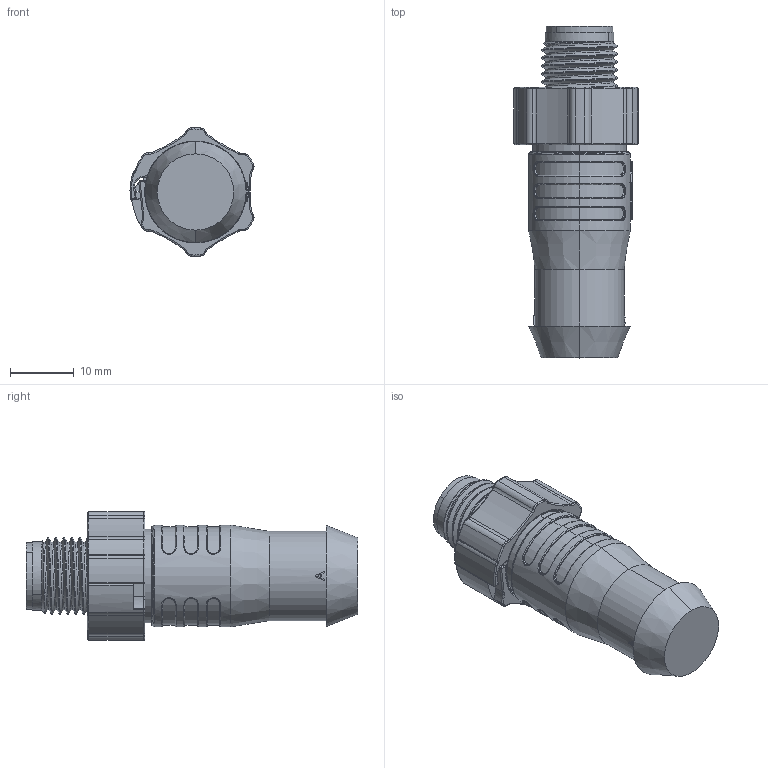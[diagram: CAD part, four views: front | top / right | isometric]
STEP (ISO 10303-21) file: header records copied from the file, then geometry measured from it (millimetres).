
FILE_DESCRIPTION (( 'STEP AP203' ), '1' );
FILE_NAME ('ESRx.step', '2023-04-05T15:33:20', ( '' ), ( '' ), 'SwSTEP 2.0', 'SolidWorks 2019', '' );
FILE_SCHEMA (( 'CONFIG_CONTROL_DESIGN' ));
Length unit declared in the file: millimetre
Products named in the file (1): ESRx
Bounding box: 19.49 x 52.15 x 20.2 mm (x, y, z)
Volume: 8318.1 mm3; surface area: 6255.5 mm2
Topology: 2 solids, 2 shells, 1610 faces, 4419 edges, 2787 vertices
Faces by surface type: cylinder 537, plane 480, bspline 254, torus 180, cone 111, sphere 48
Entity records: 62764 total; most frequent: CARTESIAN_POINT 24603, ORIENTED_EDGE 8764, DIRECTION 7215, EDGE_CURVE 4382, AXIS2_PLACEMENT_3D 2830, VERTEX_POINT 2785, EDGE_LOOP 1659, FACE_OUTER_BOUND 1610
